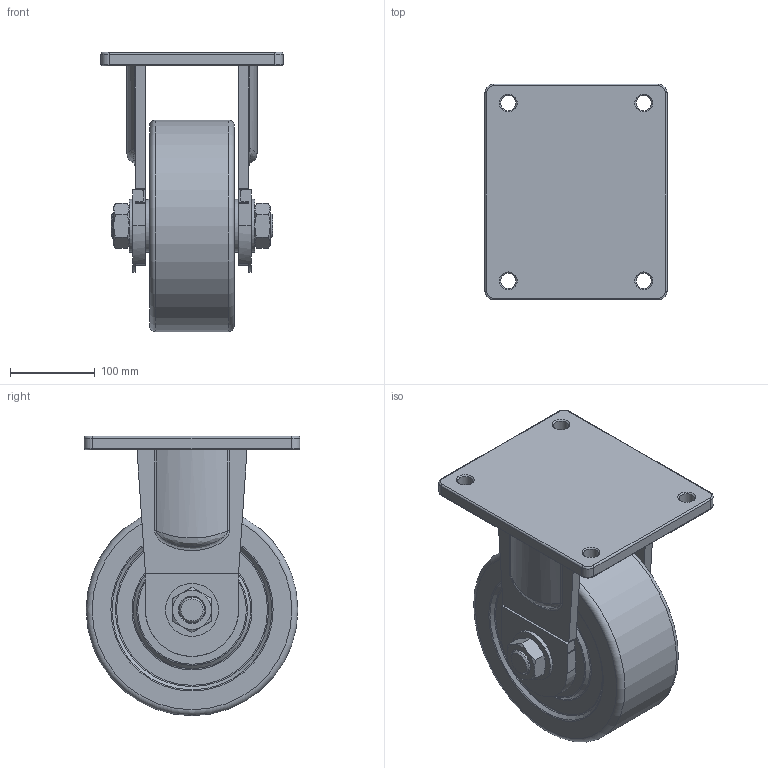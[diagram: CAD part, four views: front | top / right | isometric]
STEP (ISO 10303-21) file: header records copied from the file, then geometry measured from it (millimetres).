
FILE_DESCRIPTION((''),'2;1');
FILE_NAME('C:\Documents and Settings\Administrator\바탕 화면\3D STEP\UGXT-SERIES\UGXT-250\UGXT-250-RF.stp','2010-12-27T15:17:55',('Administrator'),(''),'Autodesk Inventor 2009','Autodesk Inventor 2009','');
FILE_SCHEMA(('AUTOMOTIVE_DESIGN { 1 0 10303 214 1 1 1 1 }'));
Length unit declared in the file: millimetre
Products named in the file (1): UGXT-250-RF
Bounding box: 215 x 255 x 330 mm (x, y, z)
Volume: 6223372.3 mm3; surface area: 509333.3 mm2
Topology: 8 solids, 8 shells, 291 faces, 692 edges, 431 vertices
Faces by surface type: plane 114, cylinder 87, cone 36, torus 30, bspline 24
Full cylindrical faces by diameter (mm): 1 x2, 18 x4, 30 x4, 30.5 x2, 38 x2, 38.5 x2, 50 x6, 60 x1, 62.5 x4, 63.334 x6, 76.666 x6, 78 x1, 90 x6, 250.001 x1
Entity records: 9728 total; most frequent: CARTESIAN_POINT 3630, DIRECTION 1280, ORIENTED_EDGE 1080, EDGE_CURVE 540, AXIS2_PLACEMENT_3D 520, EDGE_LOOP 448, VERTEX_POINT 394, FACE_OUTER_BOUND 291
